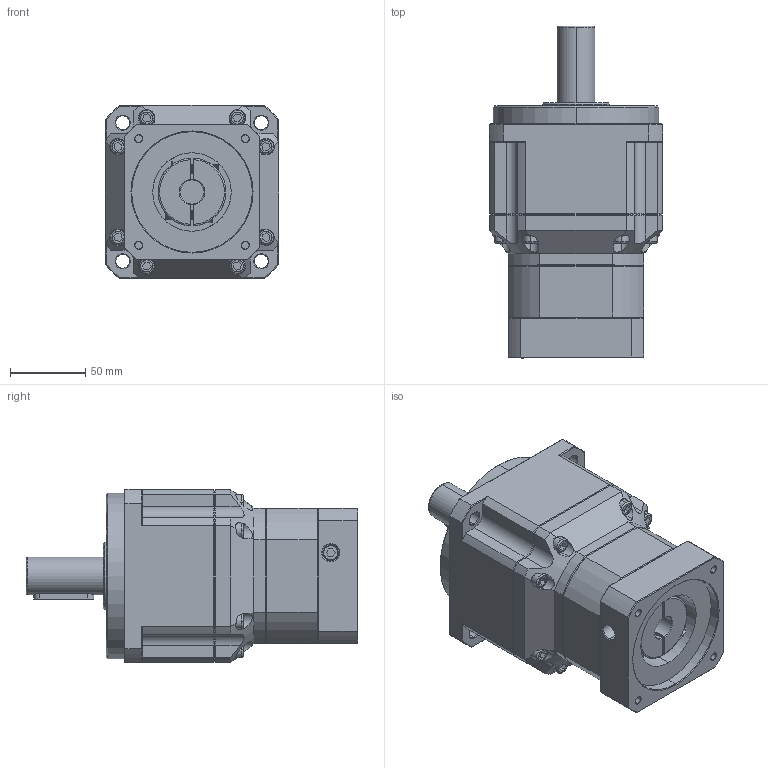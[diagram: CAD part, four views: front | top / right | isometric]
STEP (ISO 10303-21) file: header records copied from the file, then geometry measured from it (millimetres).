
FILE_DESCRIPTION (( 'STEP AP214' ), '1' );
FILE_NAME ('ZPB115-D25-L2-P1-16-80-100-M6.step', '2024-06-12T09:52:36', ( 'Windows 蚚誧' ), ( 'Organization' ), 'SwSTEP 2.0', 'SolidWorks 2016', '' );
FILE_SCHEMA (( 'AUTOMOTIVE_DESIGN' ));
Length unit declared in the file: millimetre
Products named in the file (1): ZPB115-D25-L2-P1-16-80-100-M6
Bounding box: 115 x 220 x 115 mm (x, y, z)
Surface area: 120648.5 mm2 (no closed solid volume)
Topology: 0 solids, 3 shells, 1755 faces, 4728 edges, 3077 vertices
Faces by surface type: plane 1019, bspline 399, cylinder 189, cone 148
Full cylindrical faces by diameter (mm): 10.2 x1
Entity records: 97044 total; most frequent: CARTESIAN_POINT 49693, ORIENTED_EDGE 9434, DIRECTION 6945, EDGE_CURVE 4726, VECTOR 3169, LINE 3169, VERTEX_POINT 3076, AXIS2_PLACEMENT_3D 1888
